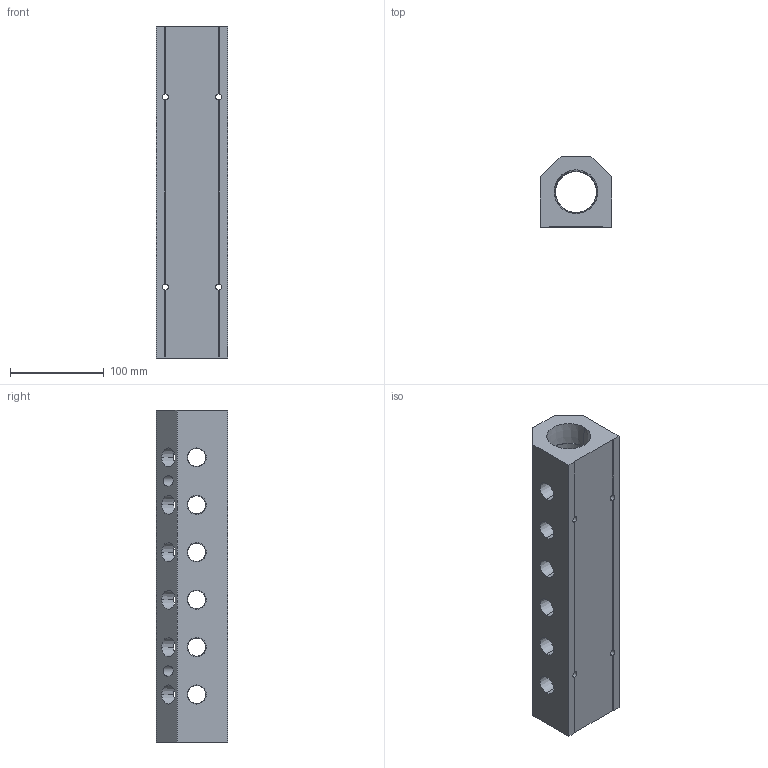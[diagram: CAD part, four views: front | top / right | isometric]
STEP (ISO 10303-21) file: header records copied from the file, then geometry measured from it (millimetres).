
FILE_DESCRIPTION (( 'STEP AP214' ), '1' );
FILE_NAME ('ALM6ABCDE-N8N24-355B.step', '2022-02-07T09:29:18', ( '' ), ( '' ), 'SwSTEP 2.0', 'SolidWorks 2020', '' );
FILE_SCHEMA (( 'AUTOMOTIVE_DESIGN' ));
Length unit declared in the file: millimetre
Products named in the file (1): ALM6ABCDE-N8N24-355B
Bounding box: 76.2 x 76.2 x 355 mm (x, y, z)
Volume: 1160462.9 mm3; surface area: 175156.2 mm2
Topology: 1 solids, 1 shells, 418 faces, 1213 edges, 806 vertices
Faces by surface type: plane 233, bspline 97, cone 64, cylinder 24
Entity records: 26237 total; most frequent: CARTESIAN_POINT 12011, ORIENTED_EDGE 2426, DIRECTION 1587, EDGE_CURVE 1213, VERTEX_POINT 806, VECTOR 751, LINE 751, EDGE_LOOP 497
